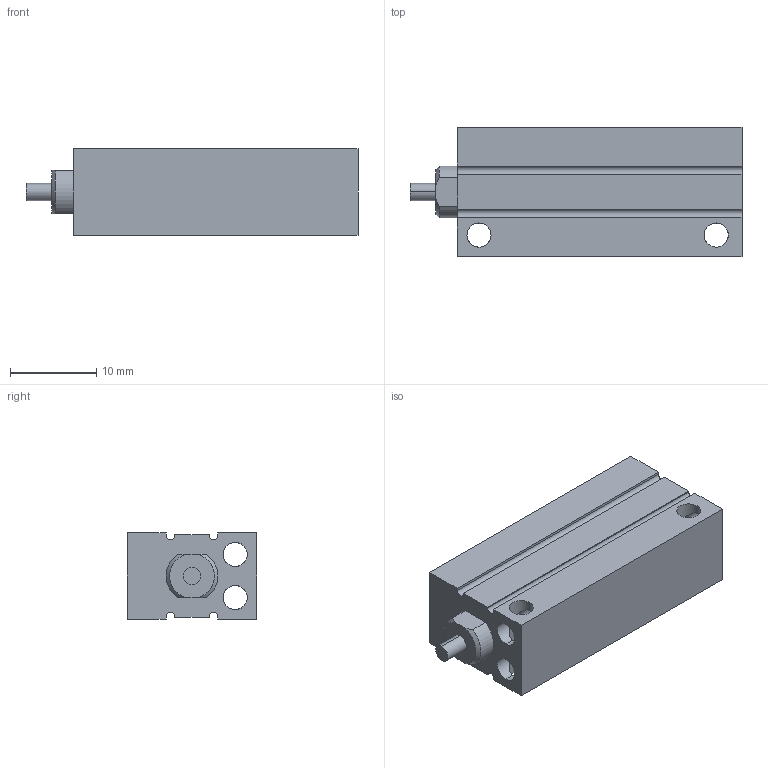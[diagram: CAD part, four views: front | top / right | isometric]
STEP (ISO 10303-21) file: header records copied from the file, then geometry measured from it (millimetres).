
FILE_DESCRIPTION (( 'STEP AP203' ), '1' );
FILE_NAME ('CLJB4-20.STEP', '2020-07-30T18:41:36', ( '' ), ( '' ), 'SwSTEP 2.0', 'SolidWorks 2019', '' );
FILE_SCHEMA (( 'CONFIG_CONTROL_DESIGN' ));
Length unit declared in the file: millimetre
Products named in the file (1): CLJB4-20
Bounding box: 38.5 x 15 x 10 mm (x, y, z)
Volume: 4183.7 mm3; surface area: 3300.2 mm2
Topology: 2 solids, 2 shells, 80 faces, 208 edges, 126 vertices
Faces by surface type: cylinder 44, plane 26, cone 10
Entity records: 2501 total; most frequent: CARTESIAN_POINT 519, ORIENTED_EDGE 408, DIRECTION 392, EDGE_CURVE 204, AXIS2_PLACEMENT_3D 143, VERTEX_POINT 126, LINE 106, VECTOR 106
